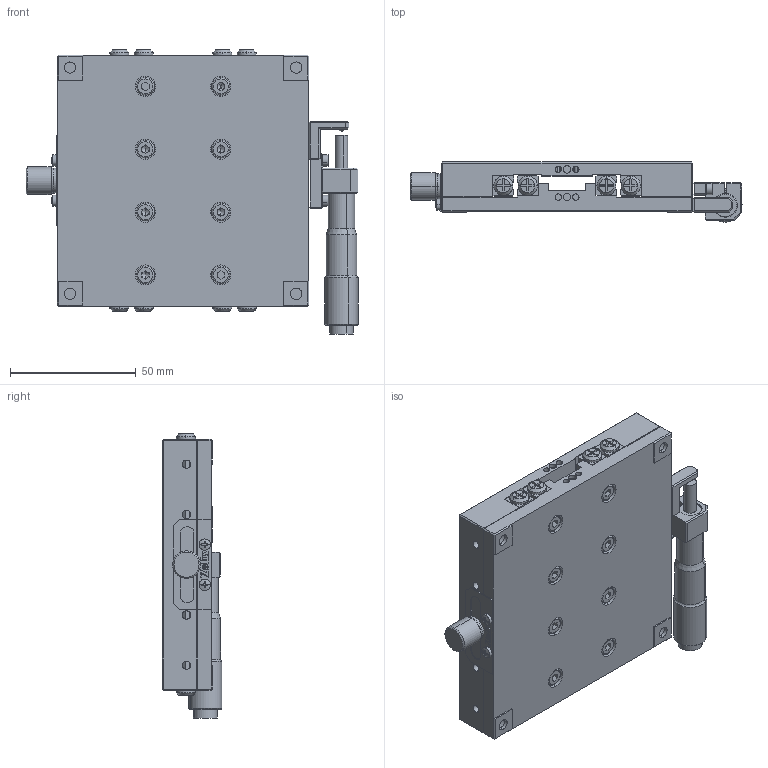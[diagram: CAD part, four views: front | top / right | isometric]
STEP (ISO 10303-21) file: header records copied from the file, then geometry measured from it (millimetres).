
FILE_DESCRIPTION (( 'STEP AP203' ), '1' );
FILE_NAME ('AK25A-10020LZ.step', '2019-05-08T06:42:17', ( '' ), ( '' ), 'SwSTEP 2.0', 'SolidWorks 2017', '' );
FILE_SCHEMA (( 'CONFIG_CONTROL_DESIGN' ));
Length unit declared in the file: millimetre
Products named in the file (1): AK25A-10020LZ
Bounding box: 132.09 x 23.79 x 113 mm (x, y, z)
Surface area: 70307.7 mm2 (no closed solid volume)
Topology: 0 solids, 41 shells, 861 faces, 2814 edges, 1879 vertices
Faces by surface type: plane 551, cylinder 198, cone 62, torus 44, sphere 6
Entity records: 31009 total; most frequent: CARTESIAN_POINT 6365, DIRECTION 5196, ORIENTED_EDGE 4612, EDGE_CURVE 2771, LINE 1894, VECTOR 1894, VERTEX_POINT 1876, AXIS2_PLACEMENT_3D 1651
